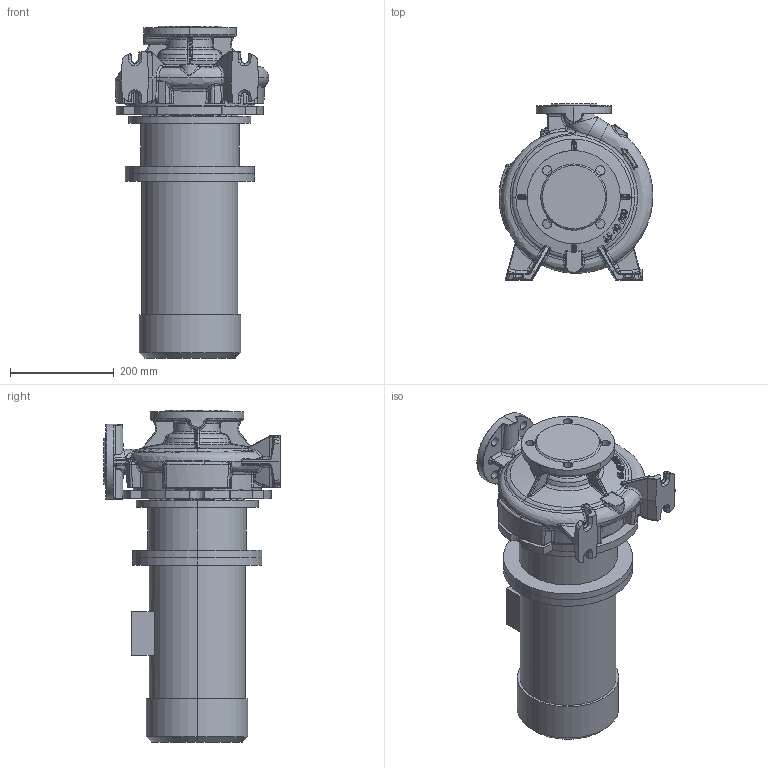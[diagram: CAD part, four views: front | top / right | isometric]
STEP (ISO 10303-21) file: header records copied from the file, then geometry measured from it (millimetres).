
FILE_DESCRIPTION (( 'STEP AP214' ), '1' );
FILE_NAME ('KRM 65-40-200-4-2,2.STEP', '2026-04-24T09:16:27', ( '' ), ( '' ), 'SwSTEP 2.0', 'SolidWorks 2016', '' );
FILE_SCHEMA (( 'AUTOMOTIVE_DESIGN' ));
Length unit declared in the file: millimetre
Products named in the file (1): KRM 65-40-200-4-2,2
Bounding box: 297.28 x 340 x 641.3 mm (x, y, z)
Volume: 22110714.9 mm3; surface area: 1063061.5 mm2
Topology: 4 solids, 4 shells, 1118 faces, 2713 edges, 1612 vertices
Faces by surface type: bspline 511, cylinder 210, plane 197, cone 90, torus 82, sphere 28
Entity records: 83378 total; most frequent: CARTESIAN_POINT 49066, ORIENTED_EDGE 5384, DIRECTION 3534, EDGE_CURVE 2692, VERTEX_POINT 1612, AXIS2_PLACEMENT_3D 1493, EDGE_LOOP 1164, UNCERTAINTY_MEASURE_WITH_UNIT 1124
